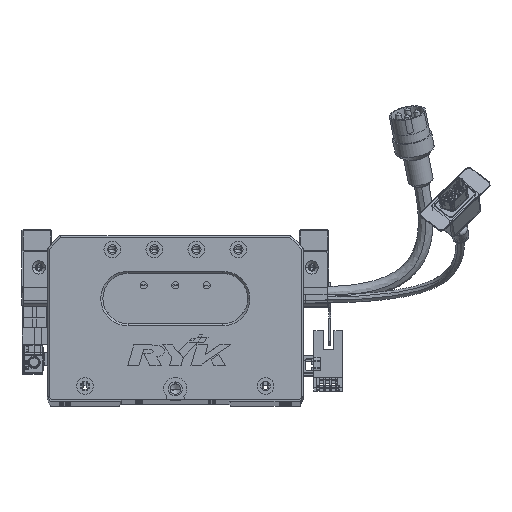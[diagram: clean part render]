
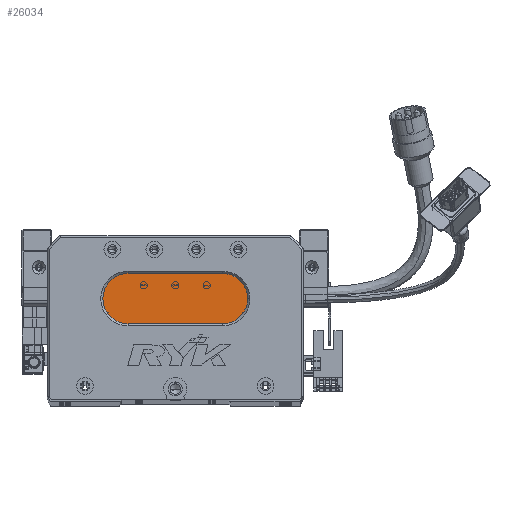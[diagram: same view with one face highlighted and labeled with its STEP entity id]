
A CAD part, top view. The second image highlights one B-rep face of the part: STEP entity #26034.
In plain terms, the highlighted planar face has unit normal (0, 0, 1) as drawn and (0, 0, -1) by its records, which use the part's own axes.
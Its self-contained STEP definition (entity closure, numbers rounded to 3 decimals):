
#192 = DIRECTION ( 'NONE',  ( 0., 0., -1. ) ) ;
#2548 = CARTESIAN_POINT ( 'NONE',  ( 26.5, 48., 13. ) ) ;
#2894 = VERTEX_POINT ( 'NONE', #83835 ) ;
#5478 = EDGE_CURVE ( 'NONE', #2894, #69159, #13036, .T. ) ;
#6948 = ORIENTED_EDGE ( 'NONE', *, *, #5478, .T. ) ;
#8513 = AXIS2_PLACEMENT_3D ( 'NONE', #68034, #192, #60351 ) ;
#9428 = AXIS2_PLACEMENT_3D ( 'NONE', #58355, #71909, #85539 ) ;
#9820 = VECTOR ( 'NONE', #12401, 1000. ) ;
#10300 = VERTEX_POINT ( 'NONE', #2548 ) ;
#10363 = CARTESIAN_POINT ( 'NONE',  ( 83.5, 36., 13. ) ) ;
#11233 = CIRCLE ( 'NONE', #70920, 12. ) ;
#12401 = DIRECTION ( 'NONE',  ( -1., 0., 0. ) ) ;
#12771 = CARTESIAN_POINT ( 'NONE',  ( 38.5, 48., 13. ) ) ;
#13036 = LINE ( 'NONE', #10363, #9820 ) ;
#16533 = LINE ( 'NONE', #73189, #50310 ) ;
#16598 = CARTESIAN_POINT ( 'NONE',  ( 83.5, 48., 13. ) ) ;
#18006 = DIRECTION ( 'NONE',  ( 1., 0., 0. ) ) ;
#18252 = EDGE_CURVE ( 'NONE', #41443, #42230, #16533, .T. ) ;
#19924 = CIRCLE ( 'NONE', #8513, 12. ) ;
#23152 = ORIENTED_EDGE ( 'NONE', *, *, #18252, .T. ) ;
#26034 = ADVANCED_FACE ( 'NONE', ( #59001 ), #37717, .T. ) ;
#32606 = DIRECTION ( 'NONE',  ( 0., 0., -1. ) ) ;
#35082 = EDGE_CURVE ( 'NONE', #10300, #41443, #11233, .T. ) ;
#37717 = PLANE ( 'NONE',  #9428 ) ;
#41443 = VERTEX_POINT ( 'NONE', #48021 ) ;
#42230 = VERTEX_POINT ( 'NONE', #84245 ) ;
#43150 = CARTESIAN_POINT ( 'NONE',  ( 38.5, 36., 13. ) ) ;
#43442 = DIRECTION ( 'NONE',  ( 0., 0., -1. ) ) ;
#48021 = CARTESIAN_POINT ( 'NONE',  ( 38.5, 60., 13. ) ) ;
#48079 = AXIS2_PLACEMENT_3D ( 'NONE', #16598, #43442, #56443 ) ;
#50310 = VECTOR ( 'NONE', #18006, 1000. ) ;
#52340 = ORIENTED_EDGE ( 'NONE', *, *, #35082, .T. ) ;
#52548 = ORIENTED_EDGE ( 'NONE', *, *, #83983, .T. ) ;
#52729 = EDGE_CURVE ( 'NONE', #42230, #2894, #81321, .T. ) ;
#56443 = DIRECTION ( 'NONE',  ( -1., 0., 0. ) ) ;
#58355 = CARTESIAN_POINT ( 'NONE',  ( 83.5, 48., 13. ) ) ;
#59001 = FACE_OUTER_BOUND ( 'NONE', #84191, .T. ) ;
#60351 = DIRECTION ( 'NONE',  ( -1., 0., 0. ) ) ;
#68034 = CARTESIAN_POINT ( 'NONE',  ( 38.5, 48., 13. ) ) ;
#69159 = VERTEX_POINT ( 'NONE', #43150 ) ;
#70920 = AXIS2_PLACEMENT_3D ( 'NONE', #12771, #32606, #87160 ) ;
#71909 = DIRECTION ( 'NONE',  ( 0., 0., -1. ) ) ;
#73189 = CARTESIAN_POINT ( 'NONE',  ( 83.5, 60., 13. ) ) ;
#76293 = ORIENTED_EDGE ( 'NONE', *, *, #52729, .T. ) ;
#81321 = CIRCLE ( 'NONE', #48079, 12. ) ;
#83835 = CARTESIAN_POINT ( 'NONE',  ( 83.5, 36., 13. ) ) ;
#83983 = EDGE_CURVE ( 'NONE', #69159, #10300, #19924, .T. ) ;
#84191 = EDGE_LOOP ( 'NONE', ( #76293, #6948, #52548, #52340, #23152 ) ) ;
#84245 = CARTESIAN_POINT ( 'NONE',  ( 83.5, 60., 13. ) ) ;
#85539 = DIRECTION ( 'NONE',  ( -1., 0., 0. ) ) ;
#87160 = DIRECTION ( 'NONE',  ( -1., 0., 0. ) ) ;
